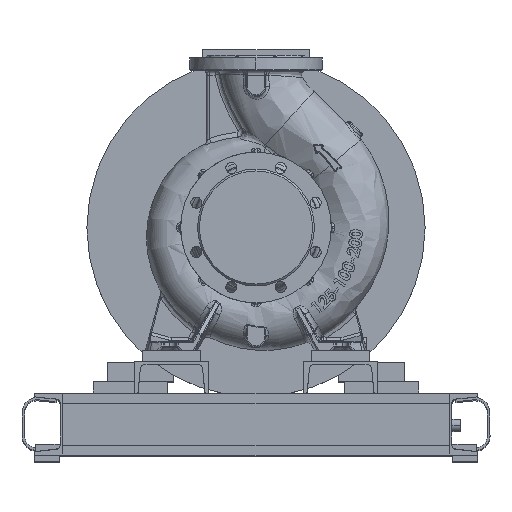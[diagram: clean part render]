
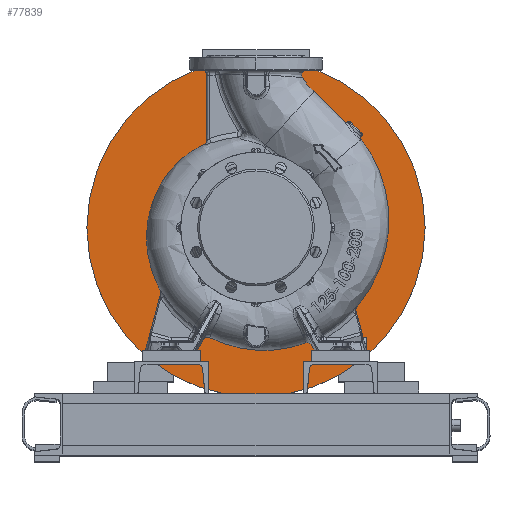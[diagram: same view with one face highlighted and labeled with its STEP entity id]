
A CAD part, top view. The second image highlights one B-rep face of the part: STEP entity #77839.
In plain terms, the highlighted planar face has unit normal (0, 0, 1).
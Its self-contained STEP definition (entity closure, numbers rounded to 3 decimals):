
#1281 = CIRCLE ( 'NONE', #67663, 275. ) ;
#3349 = CARTESIAN_POINT ( 'NONE',  ( 125., 0., -274.8 ) ) ;
#4296 = CARTESIAN_POINT ( 'NONE',  ( -275., 0., -274.8 ) ) ;
#9457 = CARTESIAN_POINT ( 'NONE',  ( 0., 0., -274.8 ) ) ;
#11681 = EDGE_CURVE ( 'NONE', #103176, #33690, #32416, .T. ) ;
#12395 = EDGE_CURVE ( 'NONE', #31124, #21207, #106948, .T. ) ;
#15022 = DIRECTION ( 'NONE',  ( 0., 0., 1. ) ) ;
#19862 = DIRECTION ( 'NONE',  ( 0., 0., 1. ) ) ;
#21207 = VERTEX_POINT ( 'NONE', #3349 ) ;
#22446 = CARTESIAN_POINT ( 'NONE',  ( 0., 0., -274.8 ) ) ;
#23118 = CARTESIAN_POINT ( 'NONE',  ( 0., 0., -274.8 ) ) ;
#25529 = CARTESIAN_POINT ( 'NONE',  ( 0., 125., -274.8 ) ) ;
#25567 = DIRECTION ( 'NONE',  ( 1., 0., 0. ) ) ;
#26292 = DIRECTION ( 'NONE',  ( 0., 0., 1. ) ) ;
#29034 = CARTESIAN_POINT ( 'NONE',  ( -125., 0., -274.8 ) ) ;
#31005 = ORIENTED_EDGE ( 'NONE', *, *, #12395, .F. ) ;
#31124 = VERTEX_POINT ( 'NONE', #29034 ) ;
#32416 = CIRCLE ( 'NONE', #79806, 275. ) ;
#33690 = VERTEX_POINT ( 'NONE', #86401 ) ;
#35729 = AXIS2_PLACEMENT_3D ( 'NONE', #25529, #51131, #50776 ) ;
#42697 = PLANE ( 'NONE',  #35729 ) ;
#46977 = DIRECTION ( 'NONE',  ( 1., 0., 0. ) ) ;
#47661 = DIRECTION ( 'NONE',  ( 1., 0., 0. ) ) ;
#47712 = EDGE_LOOP ( 'NONE', ( #48075, #31005 ) ) ;
#48075 = ORIENTED_EDGE ( 'NONE', *, *, #61798, .F. ) ;
#48747 = CARTESIAN_POINT ( 'NONE',  ( 0., 0., -274.8 ) ) ;
#49567 = FACE_BOUND ( 'NONE', #47712, .T. ) ;
#50776 = DIRECTION ( 'NONE',  ( -1., 0., 0. ) ) ;
#51131 = DIRECTION ( 'NONE',  ( 0., 0., -1. ) ) ;
#56786 = DIRECTION ( 'NONE',  ( 0., 0., 1. ) ) ;
#58569 = ORIENTED_EDGE ( 'NONE', *, *, #97704, .T. ) ;
#61798 = EDGE_CURVE ( 'NONE', #21207, #31124, #81843, .T. ) ;
#65550 = DIRECTION ( 'NONE',  ( 1., 0., 0. ) ) ;
#66089 = AXIS2_PLACEMENT_3D ( 'NONE', #22446, #19862, #46977 ) ;
#67663 = AXIS2_PLACEMENT_3D ( 'NONE', #9457, #26292, #25567 ) ;
#69205 = FACE_OUTER_BOUND ( 'NONE', #75698, .T. ) ;
#69343 = AXIS2_PLACEMENT_3D ( 'NONE', #48747, #56786, #65550 ) ;
#75698 = EDGE_LOOP ( 'NONE', ( #58569, #99283 ) ) ;
#77839 = ADVANCED_FACE ( 'NONE', ( #49567, #69205 ), #42697, .F. ) ;
#79806 = AXIS2_PLACEMENT_3D ( 'NONE', #23118, #15022, #47661 ) ;
#81843 = CIRCLE ( 'NONE', #66089, 125. ) ;
#86401 = CARTESIAN_POINT ( 'NONE',  ( 275., 0., -274.8 ) ) ;
#97704 = EDGE_CURVE ( 'NONE', #33690, #103176, #1281, .T. ) ;
#99283 = ORIENTED_EDGE ( 'NONE', *, *, #11681, .T. ) ;
#103176 = VERTEX_POINT ( 'NONE', #4296 ) ;
#106948 = CIRCLE ( 'NONE', #69343, 125. ) ;
